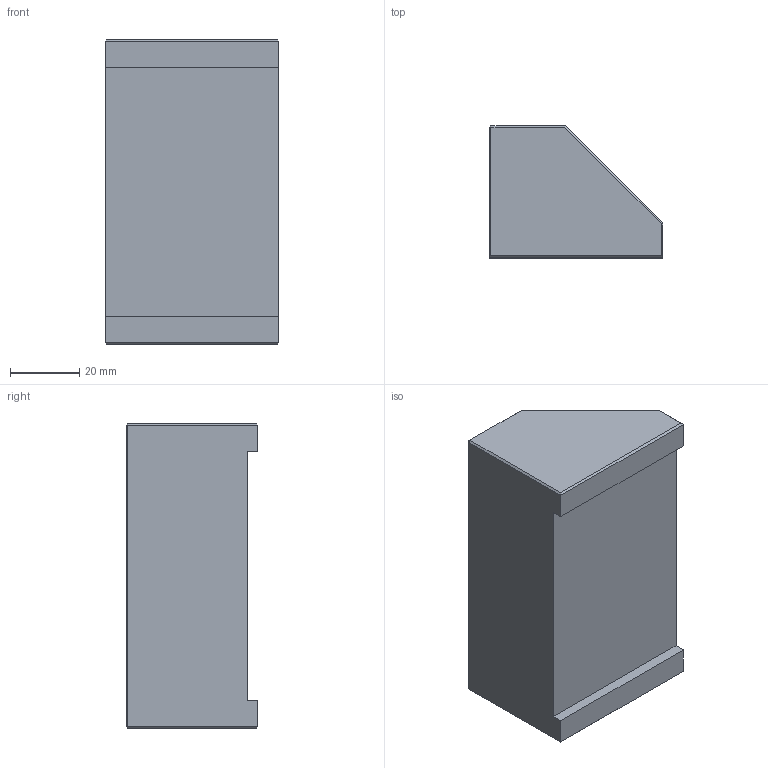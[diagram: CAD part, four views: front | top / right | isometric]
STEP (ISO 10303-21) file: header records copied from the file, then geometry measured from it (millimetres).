
FILE_DESCRIPTION (( 'STEP AP203' ), '1' );
FILE_NAME ('mors mobile.STEP', '2009-12-04T11:21:40', ( 'Famille Couzi' ), ( '' ), 'SwSTEP 2.0', 'SolidWorks 2005143', '' );
FILE_SCHEMA (( 'CONFIG_CONTROL_DESIGN' ));
Length unit declared in the file: millimetre
Products named in the file (1): mors mobile
Bounding box: 50 x 38 x 88 mm (x, y, z)
Volume: 121049.7 mm3; surface area: 17917.3 mm2
Topology: 1 solids, 1 shells, 37 faces, 82 edges, 50 vertices
Faces by surface type: plane 33, cylinder 4
Entity records: 1069 total; most frequent: CARTESIAN_POINT 170, DIRECTION 166, ORIENTED_EDGE 164, EDGE_CURVE 82, VECTOR 74, LINE 74, VERTEX_POINT 50, AXIS2_PLACEMENT_3D 46
